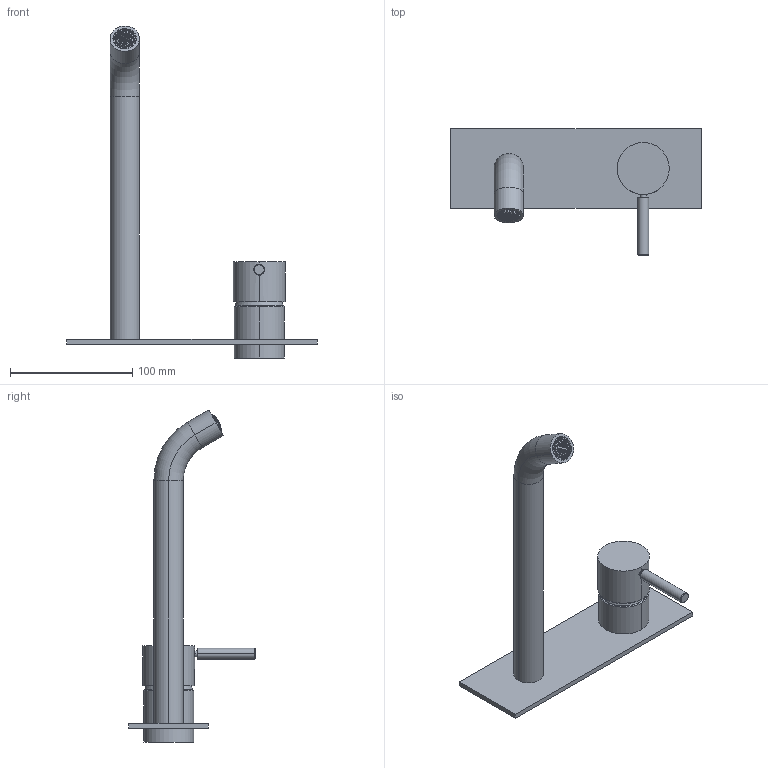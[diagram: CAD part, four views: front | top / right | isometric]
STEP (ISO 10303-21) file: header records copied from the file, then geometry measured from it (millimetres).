
FILE_DESCRIPTION((''),'2;1');
FILE_NAME('50000E014B000000_SW0001','2025-04-02T10:21:34',('cristian.dorz'),(''),'CREO PARAMETRIC BY PTC INC, 2022281','CREO PARAMETRIC BY PTC INC, 2022281','');
FILE_SCHEMA(('AUTOMOTIVE_DESIGN { 1 0 10303 214 1 1 1 1 }'));
Length unit declared in the file: millimetre
Products named in the file (1): 50000E014B000000_SW0001
Bounding box: 205 x 103.35 x 271.59 mm (x, y, z)
Volume: 261108.6 mm3; surface area: 65310.8 mm2
Topology: 1 solids, 2 shells, 1127 faces, 3108 edges, 2062 vertices
Faces by surface type: plane 1052, cylinder 41, torus 20, cone 8, sphere 4, bspline 2
Entity records: 42566 total; most frequent: CARTESIAN_POINT 7264, ORIENTED_EDGE 6216, DIRECTION 5710, EDGE_CURVE 3108, VECTOR 2749, LINE 2749, VERTEX_POINT 2062, AXIS2_PLACEMENT_3D 1479
